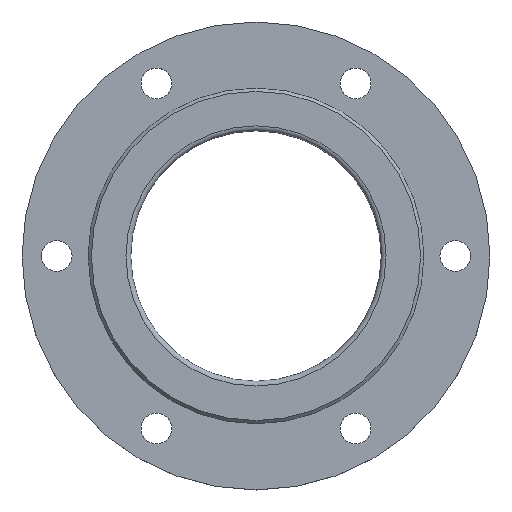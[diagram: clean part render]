
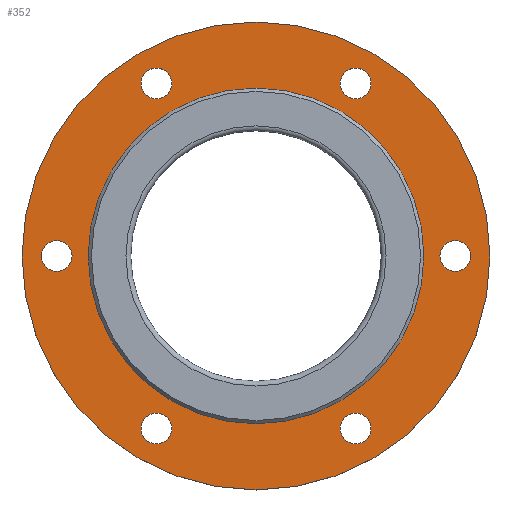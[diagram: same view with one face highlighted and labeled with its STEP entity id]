
A CAD part, top view. The second image highlights one B-rep face of the part: STEP entity #352.
In plain terms, the highlighted planar face has unit normal (0, 0, 1).
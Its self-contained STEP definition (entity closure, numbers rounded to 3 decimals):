
#20=FACE_BOUND('',#64,.T.);
#21=FACE_BOUND('',#65,.T.);
#22=FACE_BOUND('',#66,.T.);
#23=FACE_BOUND('',#67,.T.);
#24=FACE_BOUND('',#68,.T.);
#25=FACE_BOUND('',#69,.T.);
#26=FACE_BOUND('',#70,.T.);
#36=PLANE('',#407);
#46=FACE_OUTER_BOUND('',#63,.T.);
#63=EDGE_LOOP('',(#268,#269));
#64=EDGE_LOOP('',(#270,#271));
#65=EDGE_LOOP('',(#272,#273));
#66=EDGE_LOOP('',(#274,#275));
#67=EDGE_LOOP('',(#276,#277));
#68=EDGE_LOOP('',(#278,#279));
#69=EDGE_LOOP('',(#280,#281));
#70=EDGE_LOOP('',(#282,#283));
#112=CIRCLE('',#384,9.5);
#113=CIRCLE('',#385,9.5);
#115=CIRCLE('',#388,9.5);
#116=CIRCLE('',#389,9.5);
#118=CIRCLE('',#392,9.5);
#119=CIRCLE('',#393,9.5);
#121=CIRCLE('',#396,9.5);
#122=CIRCLE('',#397,9.5);
#124=CIRCLE('',#400,9.5);
#125=CIRCLE('',#401,9.5);
#127=CIRCLE('',#404,9.5);
#128=CIRCLE('',#405,9.5);
#130=CIRCLE('',#408,145.);
#131=CIRCLE('',#409,145.);
#132=CIRCLE('',#410,104.);
#133=CIRCLE('',#411,104.);
#151=VERTEX_POINT('',#566);
#152=VERTEX_POINT('',#567);
#154=VERTEX_POINT('',#574);
#155=VERTEX_POINT('',#575);
#157=VERTEX_POINT('',#582);
#158=VERTEX_POINT('',#583);
#160=VERTEX_POINT('',#590);
#161=VERTEX_POINT('',#591);
#163=VERTEX_POINT('',#598);
#164=VERTEX_POINT('',#599);
#166=VERTEX_POINT('',#606);
#167=VERTEX_POINT('',#607);
#169=VERTEX_POINT('',#614);
#170=VERTEX_POINT('',#615);
#171=VERTEX_POINT('',#618);
#172=VERTEX_POINT('',#619);
#188=EDGE_CURVE('',#151,#152,#112,.T.);
#189=EDGE_CURVE('',#152,#151,#113,.T.);
#192=EDGE_CURVE('',#154,#155,#115,.T.);
#193=EDGE_CURVE('',#155,#154,#116,.T.);
#196=EDGE_CURVE('',#157,#158,#118,.T.);
#197=EDGE_CURVE('',#158,#157,#119,.T.);
#200=EDGE_CURVE('',#160,#161,#121,.T.);
#201=EDGE_CURVE('',#161,#160,#122,.T.);
#204=EDGE_CURVE('',#163,#164,#124,.T.);
#205=EDGE_CURVE('',#164,#163,#125,.T.);
#208=EDGE_CURVE('',#166,#167,#127,.T.);
#209=EDGE_CURVE('',#167,#166,#128,.T.);
#212=EDGE_CURVE('',#169,#170,#130,.T.);
#213=EDGE_CURVE('',#170,#169,#131,.T.);
#214=EDGE_CURVE('',#171,#172,#132,.T.);
#215=EDGE_CURVE('',#172,#171,#133,.T.);
#268=ORIENTED_EDGE('',*,*,#212,.F.);
#269=ORIENTED_EDGE('',*,*,#213,.F.);
#270=ORIENTED_EDGE('',*,*,#188,.T.);
#271=ORIENTED_EDGE('',*,*,#189,.T.);
#272=ORIENTED_EDGE('',*,*,#192,.T.);
#273=ORIENTED_EDGE('',*,*,#193,.T.);
#274=ORIENTED_EDGE('',*,*,#196,.T.);
#275=ORIENTED_EDGE('',*,*,#197,.T.);
#276=ORIENTED_EDGE('',*,*,#200,.T.);
#277=ORIENTED_EDGE('',*,*,#201,.T.);
#278=ORIENTED_EDGE('',*,*,#204,.T.);
#279=ORIENTED_EDGE('',*,*,#205,.T.);
#280=ORIENTED_EDGE('',*,*,#208,.T.);
#281=ORIENTED_EDGE('',*,*,#209,.T.);
#282=ORIENTED_EDGE('',*,*,#214,.T.);
#283=ORIENTED_EDGE('',*,*,#215,.T.);
#352=ADVANCED_FACE('',(#46,#20,#21,#22,#23,#24,#25,#26),#36,.F.);
#384=AXIS2_PLACEMENT_3D('',#568,#443,#444);
#385=AXIS2_PLACEMENT_3D('',#569,#445,#446);
#388=AXIS2_PLACEMENT_3D('',#576,#452,#453);
#389=AXIS2_PLACEMENT_3D('',#577,#454,#455);
#392=AXIS2_PLACEMENT_3D('',#584,#461,#462);
#393=AXIS2_PLACEMENT_3D('',#585,#463,#464);
#396=AXIS2_PLACEMENT_3D('',#592,#470,#471);
#397=AXIS2_PLACEMENT_3D('',#593,#472,#473);
#400=AXIS2_PLACEMENT_3D('',#600,#479,#480);
#401=AXIS2_PLACEMENT_3D('',#601,#481,#482);
#404=AXIS2_PLACEMENT_3D('',#608,#488,#489);
#405=AXIS2_PLACEMENT_3D('',#609,#490,#491);
#407=AXIS2_PLACEMENT_3D('',#613,#495,#496);
#408=AXIS2_PLACEMENT_3D('',#616,#497,#498);
#409=AXIS2_PLACEMENT_3D('',#617,#499,#500);
#410=AXIS2_PLACEMENT_3D('',#620,#501,#502);
#411=AXIS2_PLACEMENT_3D('',#621,#503,#504);
#443=DIRECTION('center_axis',(0.,0.,-1.));
#444=DIRECTION('ref_axis',(0.5,-0.866,0.));
#445=DIRECTION('center_axis',(0.,0.,-1.));
#446=DIRECTION('ref_axis',(0.5,-0.866,0.));
#452=DIRECTION('center_axis',(0.,0.,-1.));
#453=DIRECTION('ref_axis',(-0.5,-0.866,0.));
#454=DIRECTION('center_axis',(0.,0.,-1.));
#455=DIRECTION('ref_axis',(-0.5,-0.866,0.));
#461=DIRECTION('center_axis',(0.,0.,-1.));
#462=DIRECTION('ref_axis',(-1.,0.,0.));
#463=DIRECTION('center_axis',(0.,0.,-1.));
#464=DIRECTION('ref_axis',(-1.,0.,0.));
#470=DIRECTION('center_axis',(0.,0.,-1.));
#471=DIRECTION('ref_axis',(-0.5,0.866,0.));
#472=DIRECTION('center_axis',(0.,0.,-1.));
#473=DIRECTION('ref_axis',(-0.5,0.866,0.));
#479=DIRECTION('center_axis',(0.,0.,-1.));
#480=DIRECTION('ref_axis',(0.5,0.866,0.));
#481=DIRECTION('center_axis',(0.,0.,-1.));
#482=DIRECTION('ref_axis',(0.5,0.866,0.));
#488=DIRECTION('center_axis',(0.,0.,-1.));
#489=DIRECTION('ref_axis',(1.,0.,0.));
#490=DIRECTION('center_axis',(0.,0.,-1.));
#491=DIRECTION('ref_axis',(1.,0.,0.));
#495=DIRECTION('center_axis',(0.,0.,-1.));
#496=DIRECTION('ref_axis',(-1.,0.,0.));
#497=DIRECTION('center_axis',(0.,0.,-1.));
#498=DIRECTION('ref_axis',(1.,0.,0.));
#499=DIRECTION('center_axis',(0.,0.,-1.));
#500=DIRECTION('ref_axis',(1.,0.,0.));
#501=DIRECTION('center_axis',(0.,0.,-1.));
#502=DIRECTION('ref_axis',(1.,0.,0.));
#503=DIRECTION('center_axis',(0.,0.,-1.));
#504=DIRECTION('ref_axis',(1.,0.,0.));
#566=CARTESIAN_POINT('',(66.5,98.727,-2.));
#567=CARTESIAN_POINT('',(57.,115.181,-2.));
#568=CARTESIAN_POINT('Origin',(61.75,106.954,-2.));
#569=CARTESIAN_POINT('Origin',(61.75,106.954,-2.));
#574=CARTESIAN_POINT('',(118.75,-8.227,-2.));
#575=CARTESIAN_POINT('',(128.25,8.227,-2.));
#576=CARTESIAN_POINT('Origin',(123.5,0.,-2.));
#577=CARTESIAN_POINT('Origin',(123.5,0.,-2.));
#582=CARTESIAN_POINT('',(52.25,-106.954,-2.));
#583=CARTESIAN_POINT('',(71.25,-106.954,-2.));
#584=CARTESIAN_POINT('Origin',(61.75,-106.954,-2.));
#585=CARTESIAN_POINT('Origin',(61.75,-106.954,-2.));
#590=CARTESIAN_POINT('',(-66.5,-98.727,-2.));
#591=CARTESIAN_POINT('',(-57.,-115.181,-2.));
#592=CARTESIAN_POINT('Origin',(-61.75,-106.954,-2.));
#593=CARTESIAN_POINT('Origin',(-61.75,-106.954,-2.));
#598=CARTESIAN_POINT('',(-118.75,8.227,-2.));
#599=CARTESIAN_POINT('',(-128.25,-8.227,-2.));
#600=CARTESIAN_POINT('Origin',(-123.5,0.,-2.));
#601=CARTESIAN_POINT('Origin',(-123.5,0.,-2.));
#606=CARTESIAN_POINT('',(-52.25,106.954,-2.));
#607=CARTESIAN_POINT('',(-71.25,106.954,-2.));
#608=CARTESIAN_POINT('Origin',(-61.75,106.954,-2.));
#609=CARTESIAN_POINT('Origin',(-61.75,106.954,-2.));
#613=CARTESIAN_POINT('Origin',(104.,0.,-2.));
#614=CARTESIAN_POINT('',(145.,0.,-2.));
#615=CARTESIAN_POINT('',(-145.,0.,-2.));
#616=CARTESIAN_POINT('Origin',(0.,0.,-2.));
#617=CARTESIAN_POINT('Origin',(0.,0.,-2.));
#618=CARTESIAN_POINT('',(104.,0.,-2.));
#619=CARTESIAN_POINT('',(-104.,0.,-2.));
#620=CARTESIAN_POINT('Origin',(0.,0.,-2.));
#621=CARTESIAN_POINT('Origin',(0.,0.,-2.));
